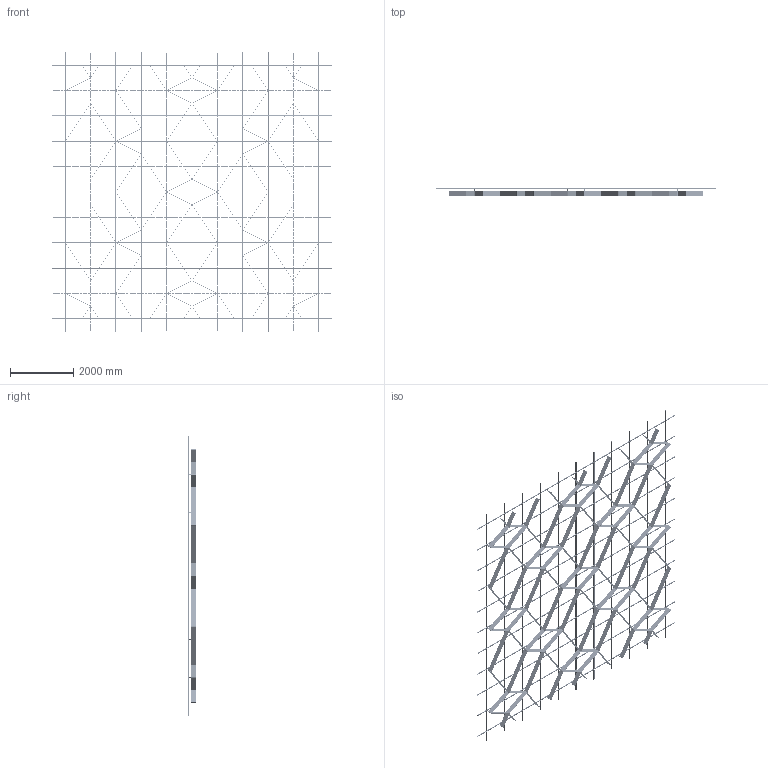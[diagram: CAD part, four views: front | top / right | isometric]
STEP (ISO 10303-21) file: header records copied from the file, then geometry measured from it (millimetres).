
FILE_DESCRIPTION (( 'STEP AP214' ), '1' );
FILE_NAME ('OPT_Var13.STEP', '2024-04-26T06:48:50', ( '' ), ( '' ), 'SwSTEP 2.0', 'SolidWorks 2020', '' );
FILE_SCHEMA (( 'AUTOMOTIVE_DESIGN' ));
Length unit declared in the file: millimetre
Products named in the file (5): OPT_Var13; Ñèñòåìà â çîíå 8000õ8000; Varp13; SS.SEMA.2400 - Ñèìà-ïðîôèëü — îáðåçàí 1600; SS.SEMA.2400 - Ñèìà-ïðîôèëü
Assembly tree (90 placements, depth 3):
  OPT_Var13
    Ñèñòåìà â çîíå 8000õ8000
      SS.SEMA.2400 - Ñèìà-ïðîôèëü  x66
      SS.SEMA.2400 - Ñèìà-ïðîôèëü — îáðåçàí 1600  x22
    Varp13
Bounding box: 8800 x 253 x 8800 mm (x, y, z)
Volume: 149804420 mm3; surface area: 66766061.1 mm2
Topology: 504 solids, 504 shells, 18836 faces, 52076 edges, 34248 vertices
Faces by surface type: cylinder 12466, plane 6370
Entity records: 74057 total; most frequent: CARTESIAN_POINT 21882, ORIENTED_EDGE 11000, DIRECTION 7026, EDGE_CURVE 5500, VERTEX_POINT 3656, B_SPLINE_CURVE_WITH_KNOTS 3296, AXIS2_PLACEMENT_3D 3264, EDGE_LOOP 2842
